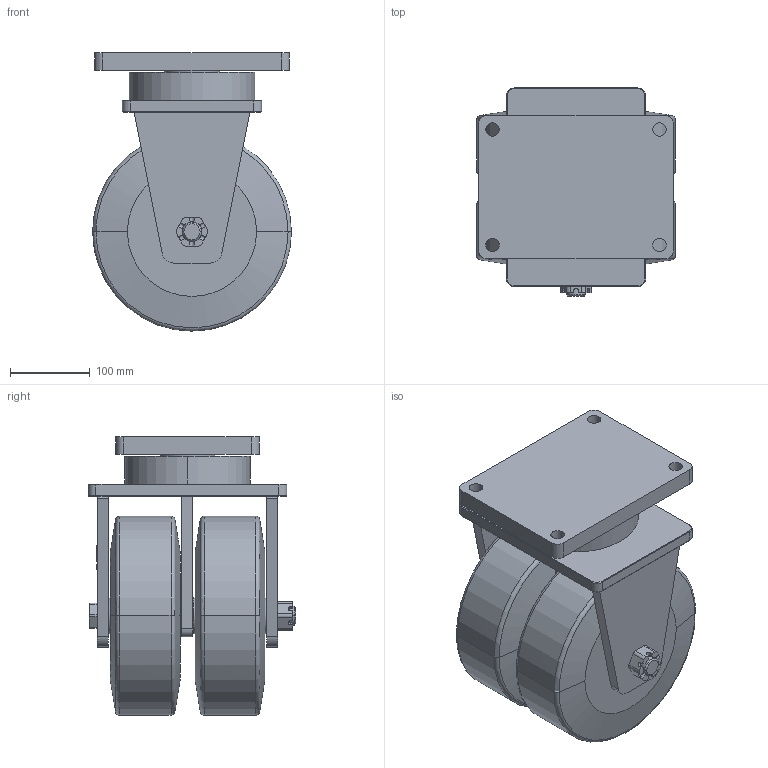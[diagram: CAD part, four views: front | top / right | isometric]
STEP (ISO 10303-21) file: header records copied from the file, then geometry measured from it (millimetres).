
FILE_DESCRIPTION(/* description */ (''),/* implementation_level */ '2;1');
FILE_NAME(/* name */ '40B06_10_F.stp',/* time_stamp */ '2022-08-29T10:50:33+08:00',/* author */ (''),/* organization */ (''),/* preprocessor_version */ 'ST-DEVELOPER v14',/* originating_system */ 'SIEMENS PLM Software NX 8.0',/* authorisation */ '');
FILE_SCHEMA (('AUTOMOTIVE_DESIGN { 1 0 10303 214 3 1 1 1 }'));
Length unit declared in the file: millimetre
Products named in the file (1): 40B06_10_F
Bounding box: 250 x 261.5 x 350 mm (x, y, z)
Volume: 11211782.6 mm3; surface area: 651824 mm2
Topology: 1 solids, 1 shells, 363 faces, 982 edges, 654 vertices
Faces by surface type: plane 240, cylinder 97, cone 18, torus 8
Full cylindrical faces by diameter (mm): 17 x4
Entity records: 11954 total; most frequent: CARTESIAN_POINT 3016, ORIENTED_EDGE 1956, DIRECTION 1702, EDGE_CURVE 978, VERTEX_POINT 654, AXIS2_PLACEMENT_3D 614, LINE 474, VECTOR 474
